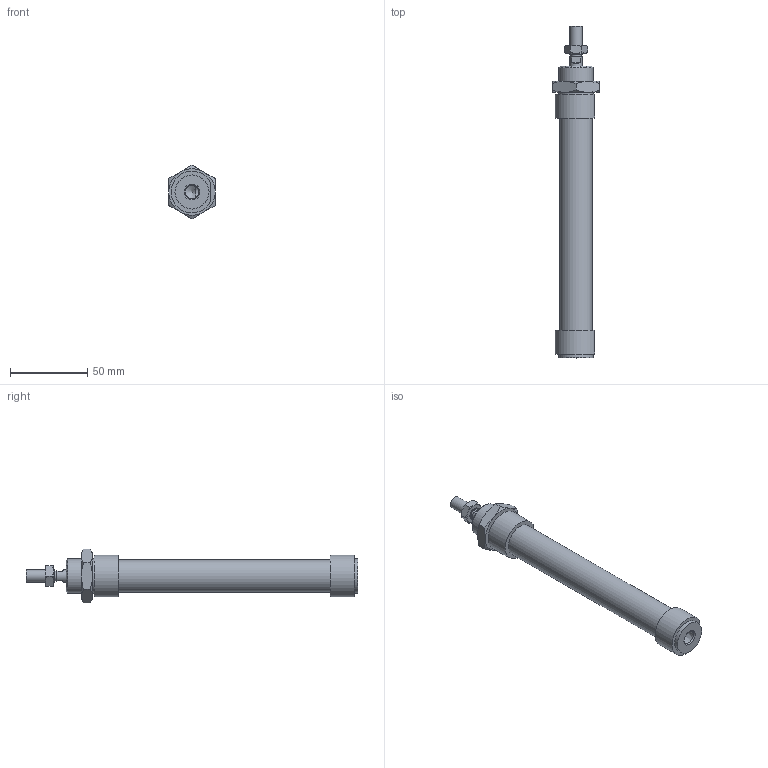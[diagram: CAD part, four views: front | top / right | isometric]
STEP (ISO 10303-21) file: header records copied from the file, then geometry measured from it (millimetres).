
FILE_DESCRIPTION((''),'2;1');
FILE_NAME('I:\Area Tecnica\Disegni\VARIE-3D\Componenti\1280\1281_##_####_#\1281_20_0100.iam.stp','2009-06-04T09:39:13',(''),(''),'Autodesk Inventor 2010','Autodesk Inventor 2010','');
FILE_SCHEMA(('AUTOMOTIVE_DESIGN { 1 0 10303 214 1 1 1 1 }'));
Length unit declared in the file: millimetre
Products named in the file (5): 1281_20_0100; C1281_20_100; S1280_20_100; 1200_20_05; 1200_20_06
Assembly tree (4 placements, depth 2):
  1281_20_0100
    C1281_20_100
    S1280_20_100
    1200_20_05
    1200_20_06
Bounding box: 30 x 214.5 x 34.64 mm (x, y, z)
Volume: 76617.9 mm3; surface area: 25163.9 mm2
Topology: 4 solids, 4 shells, 86 faces, 185 edges, 112 vertices
Faces by surface type: plane 36, cone 26, bspline 15, cylinder 9
Full cylindrical faces by diameter (mm): 6.5 x1, 8 x3, 21.2 x1, 22 x2
Entity records: 2537 total; most frequent: CARTESIAN_POINT 698, DIRECTION 332, ORIENTED_EDGE 310, EDGE_CURVE 155, AXIS2_PLACEMENT_3D 148, EDGE_LOOP 120, VERTEX_POINT 103, STYLED_ITEM 90
